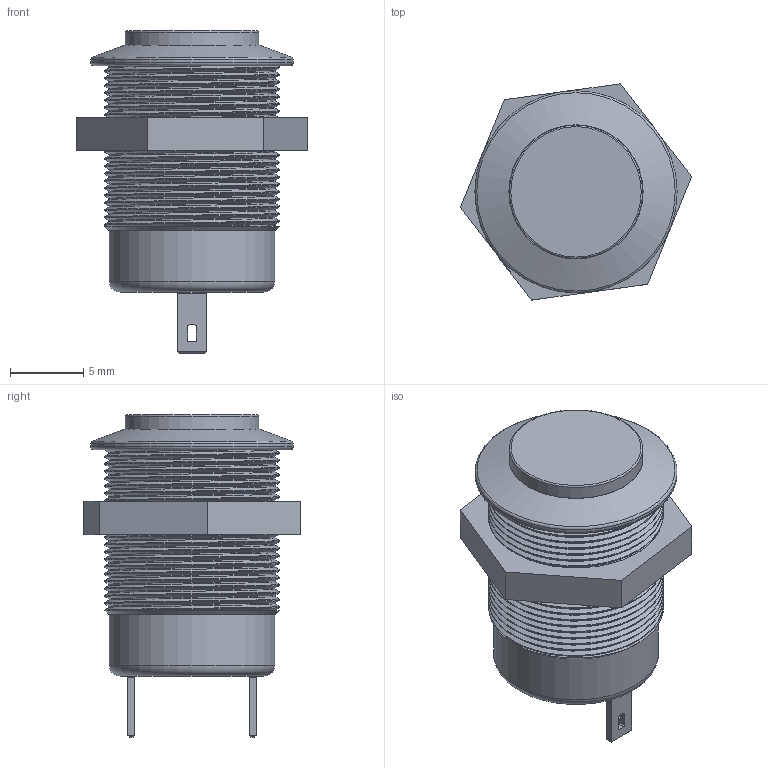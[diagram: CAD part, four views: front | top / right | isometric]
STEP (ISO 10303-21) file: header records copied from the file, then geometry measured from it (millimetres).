
FILE_DESCRIPTION(('HOOPS Exchange Step'),'2;1');
FILE_NAME('/Users/jason/Library/Containers/com.shapr3d.shapr/Data/tmp/export/temp_export','2025-03-13T14:25:44-04:00',('jason'),('Shapr3D Limited'),'HOOPS Exchange 2024.8','Shapr3D','Authorized');
FILE_SCHEMA( ('AP242_MANAGED_MODEL_BASED_3D_ENGINEERING_MIM_LF {1 0 10303 442 1 1 4}') );
Length unit declared in the file: millimetre
Products named in the file (7): Body:1; button:1; solderlug:1; solderlug:3; Nut:1; STARELO 12mm Momentary Push Button - IP65 Waterproof - Normally Open; root
Assembly tree (6 placements, depth 3):
  root
    STARELO 12mm Momentary Push Button - IP65 Waterproof - Normally Open
      Body:1
      button:1
      solderlug:1
      solderlug:3
      Nut:1
Bounding box: 15.79 x 14.76 x 22.01 mm (x, y, z)
Volume: 1991.4 mm3; surface area: 1656.8 mm2
Topology: 5 solids, 5 shells, 111 faces, 370 edges, 271 vertices
Faces by surface type: cylinder 58, plane 43, cone 4, torus 4, bspline 2
Full cylindrical faces by diameter (mm): 9.1 x1, 11.3 x1, 11.348 x21, 11.529 x1, 11.927 x21, 13.8 x1
Entity records: 43540 total; most frequent: CARTESIAN_POINT 40352, ORIENTED_EDGE 740, DIRECTION 488, EDGE_CURVE 370, VERTEX_POINT 271, B_SPLINE_CURVE_WITH_KNOTS 178, AXIS2_PLACEMENT_3D 173, VECTOR 142
